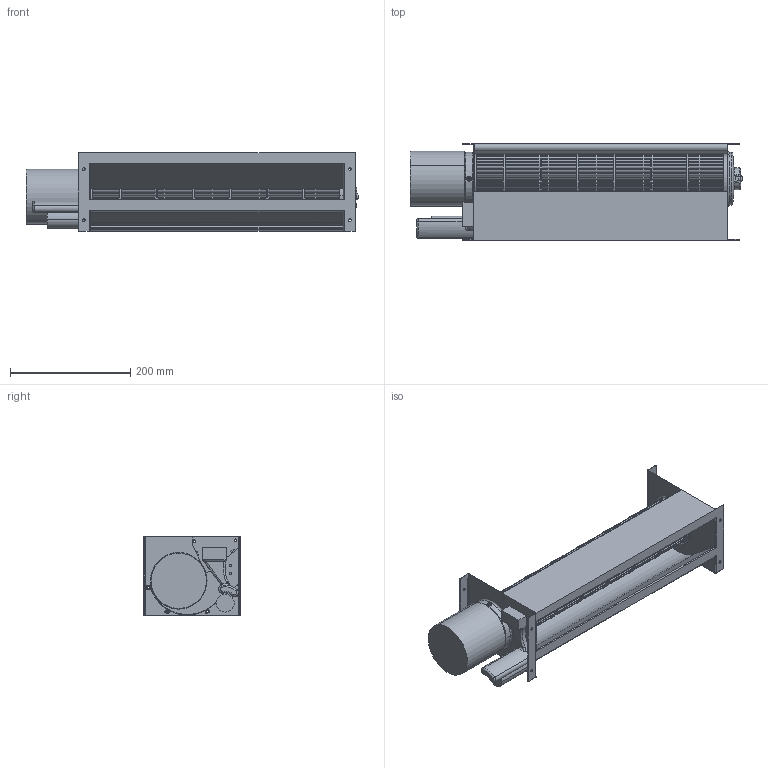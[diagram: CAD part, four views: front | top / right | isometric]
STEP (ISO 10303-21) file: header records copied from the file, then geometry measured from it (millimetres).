
FILE_DESCRIPTION(('CATIA V5 STEP Exchange'),'2;1');
FILE_NAME('C:\Users\sebas\cernbox\WINDOWS\Desktop\APPENDIX\REVISED CONFIGURATION CADS\DETAILED MOTOR SUB COMPONENTS FOR SPRING STUDY.stp','2026-06-16T15:15:35+00:00',('none'),('none'),'CATIA Version 5-6 Release 2017 SP6 HF16','CATIA V5 STEP AP203','none');
FILE_SCHEMA(('CONFIG_CONTROL_DESIGN'));
Products named in the file (3): case turbine motor assembly_short; turbine with spacers assembly_short; 02045810
Assembly tree (21 placements, depth 3):
  case turbine motor assembly_short
    #57
    turbine with spacers assembly_short
      #9100
      #39580
      #39995
      #40147
      #40707
    #41133
    02045810
      #41747
      #42769
      #43296
      #43925
    #45185
    #46711
    #46880  x2
    #49058
    #49622
    #52763
    #52932
Bounding box: 551.43 x 160 x 130 mm (x, y, z)
Volume: 2464331.7 mm3; surface area: 819781.7 mm2
Topology: 19 solids, 21 shells, 1729 faces, 4922 edges, 3205 vertices
Faces by surface type: cylinder 1255, plane 265, torus 87, cone 44, bspline 40, sphere 36, revolution 2
Entity records: 53579 total; most frequent: CARTESIAN_POINT 13797, ORIENTED_EDGE 9452, DIRECTION 5620, EDGE_CURVE 4726, AXIS2_PLACEMENT_3D 3350, VERTEX_POINT 3113, CIRCLE 2739, EDGE_LOOP 2278
